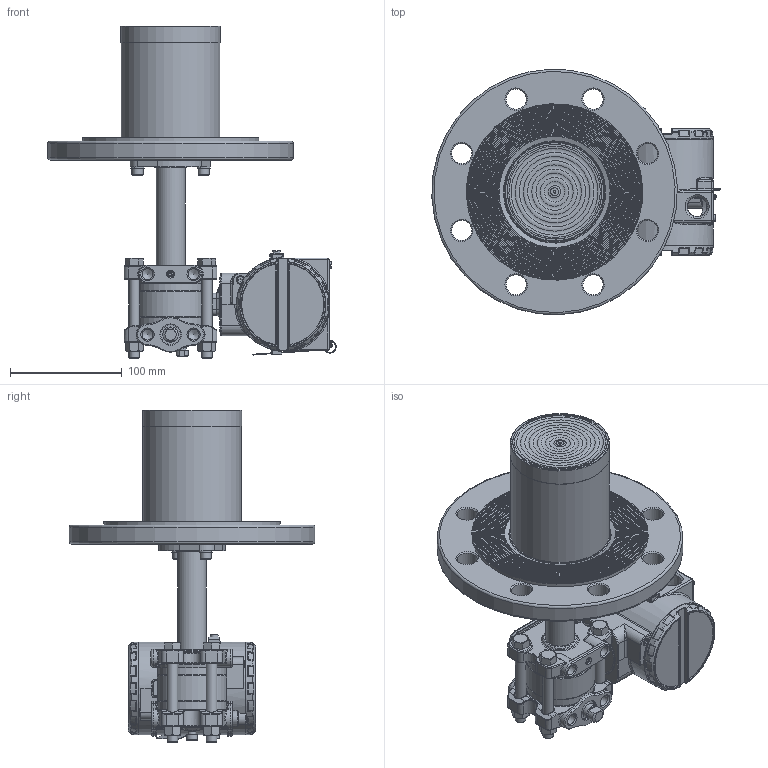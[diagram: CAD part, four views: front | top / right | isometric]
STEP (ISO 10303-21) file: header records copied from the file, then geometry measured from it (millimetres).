
FILE_DESCRIPTION(/* description */ (''),/* implementation_level */ '2;1');
FILE_NAME(/* name */ 'F:\Area\Desenvolvimento_2\Projects\Sensor\projetos\LD30X\montagens 3d - clientes\SELO NIVEL\LD30XL DN100 PN16 RF ext 100 ref 1-4NPT purga acima.stp',/* time_stamp */ '2023-02-15T11:29:20-03:00',/* author */ ('inventor02'),/* organization */ (''),/* preprocessor_version */ 'ST-DEVELOPER v17',/* originating_system */ 'Autodesk Inventor 2019',/* authorisation */ '');
FILE_SCHEMA (('CONFIG_CONTROL_DESIGN'));
Products named in the file (41): LD30XL DN100 PN16 RF ext 100 ref 1-4NPT purga acima; 204-0301-L-DN100 PN16 RF ext 100 purga acima; nivel fx3 com baixa diferencial 1-4NPT purga acima; involucro fx0-3 apos a usinagem final; flange diferencial std purga; 101-C-7484-01 flange selo nivel VR; 201-A-0504-tubo união teste 1; bujao 1-4NPT; Sangria; Porca 3-8 x 16 UNC; Paraf. 3-8 x 16 UNC; adaptação tubo x flanges 1-1-2 a 4pol; 101-B-0161-anel cortado do tubo - teste1; 101-B-0162-flange fixação tubo; ANSI B18.3.1M - M6x1 x 16; DIN 127 - A 6; flange DN100 PN16 ext 100; 096-B-0212-15; 101-B-7702-02 ext 4-100; 101-C-0141-09; carcaça vazia com tampas e plaqueta; carcaça LD inox sem letras; Subconjunto plaqueta 300; Plaqueta transmissor; Parafuso da Plaqueta; Rebite da Plaqueta; 096-A-0169-03; 101-A-0502-01; Chapa aterramento externo; ISO 1207 - M4 x 8; DIN 915 - M6 x 10; ANSI B18.3.1M - M4x0,7 x 8; Subconjunto tampa com visor aluminio; tampa pintada; VIDRO DO VISOR; oring 41x1 vidro tampa; Trava do vidro da tampa com visor; trava do vidro VH256; Subconjunto tampa sem visor-aluminio; tampa cega 300 pintada p0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
Assembly tree (51 placements, depth 4):
  LD30XL DN100 PN16 RF ext 100 ref 1-4NPT purga acima
    204-0301-L-DN100 PN16 RF ext 100 purga acima
      nivel fx3 com baixa diferencial 1-4NPT purga acima
        involucro fx0-3 apos a usinagem final
        flange diferencial std purga
        101-C-7484-01 flange selo nivel VR
        201-A-0504-tubo união teste 1
        DIN 915 - M6 x 10
        bujao 1-4NPT
        Sangria
        Porca 3-8 x 16 UNC  x4
        Paraf. 3-8 x 16 UNC  x4
      adaptação tubo x flanges 1-1-2 a 4pol
        101-B-0161-anel cortado do tubo - teste1
        101-B-0162-flange fixação tubo
        ANSI B18.3.1M - M6x1 x 16  x2
        DIN 127 - A 6  x2
      flange DN100 PN16 ext 100
        096-B-0212-15
        101-B-7702-02 ext 4-100
        101-C-0141-09
    carcaça vazia com tampas e plaqueta
      carcaça LD inox sem letras
      Subconjunto plaqueta 300
        Plaqueta transmissor
        Parafuso da Plaqueta
        Rebite da Plaqueta
        096-A-0169-03
        101-A-0502-01
      Chapa aterramento externo
      ISO 1207 - M4 x 8
      DIN 915 - M6 x 10
      ANSI B18.3.1M - M4x0,7 x 8  x2
      Subconjunto tampa com visor aluminio
        tampa pintada
        VIDRO DO VISOR
        oring 41x1 vidro tampa
        Trava do vidro da tampa com visor
        trava do vidro VH256
        00034775-0
      Subconjunto tampa sem visor-aluminio
        tampa cega 300 pintada p0
        00034775-0
Bounding box: 258.18 x 219.79 x 297.3 mm (x, y, z)
Volume: 1473689.8 mm3; surface area: 412995.3 mm2
Topology: 43 solids, 43 shells, 2799 faces, 6670 edges, 3957 vertices
Faces by surface type: bspline 666, cylinder 660, plane 590, torus 501, cone 256, sphere 126
Full cylindrical faces by diameter (mm): 2 x4, 2.1 x2, 2.459 x5, 2.5 x1, 2.642 x1, 2.7 x1, 2.8 x1, 3 x4, 3.242 x4, 3.5 x5, 3.571 x1, 4 x5, 4.3 x1, 4.4 x1, 4.917 x4, 5 x1, 5.5 x3, 6 x6, 6.647 x1, 7 x7, 7.087 x2, 7.6 x2, 7.798 x4, 8 x1, 8.7 x2, 9.525 x4, 9.728 x6, 10 x2, 10.5 x8, 10.719 x2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
Entity records: 96163 total; most frequent: CARTESIAN_POINT 34875, DIRECTION 12705, ORIENTED_EDGE 12520, EDGE_CURVE 6260, AXIS2_PLACEMENT_3D 5625, VERTEX_POINT 3763, CIRCLE 3336, EDGE_LOOP 2877
